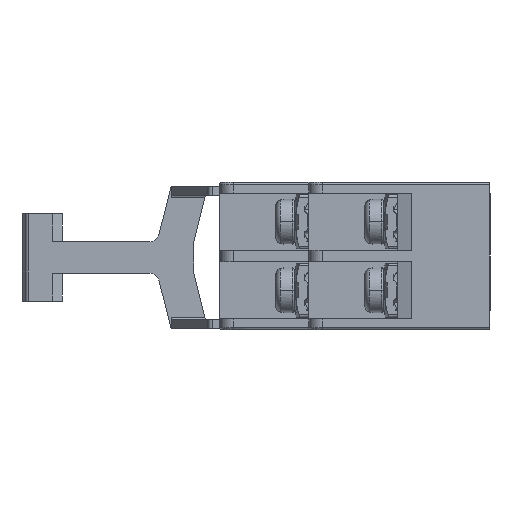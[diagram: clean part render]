
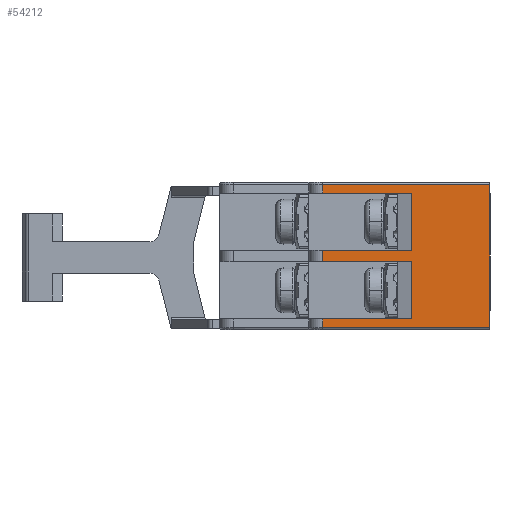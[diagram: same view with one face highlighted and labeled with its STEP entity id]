
A CAD part, left-side view. The second image highlights one B-rep face of the part: STEP entity #54212.
In plain terms, the highlighted planar face has unit normal (-1, 0, 0).
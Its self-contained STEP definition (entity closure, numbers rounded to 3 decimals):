
#377 = ORIENTED_EDGE ( 'NONE', *, *, #44050, .F. ) ;
#1500 = EDGE_CURVE ( 'NONE', #31549, #45745, #12742, .T. ) ;
#1858 = VECTOR ( 'NONE', #58380, 1000. ) ;
#3090 = DIRECTION ( 'NONE',  ( 0., 0., -1. ) ) ;
#4130 = EDGE_CURVE ( 'NONE', #72446, #48815, #29975, .T. ) ;
#4576 = CARTESIAN_POINT ( 'NONE',  ( -34.19, -12.996, 8. ) ) ;
#4980 = ORIENTED_EDGE ( 'NONE', *, *, #4130, .T. ) ;
#6129 = ORIENTED_EDGE ( 'NONE', *, *, #31778, .T. ) ;
#6484 = VERTEX_POINT ( 'NONE', #55406 ) ;
#7498 = EDGE_CURVE ( 'NONE', #64162, #13618, #70440, .T. ) ;
#7636 = CARTESIAN_POINT ( 'NONE',  ( -34.19, 4.954, -6.75 ) ) ;
#8381 = LINE ( 'NONE', #13487, #25812 ) ;
#9680 = CARTESIAN_POINT ( 'NONE',  ( -34.19, 4.954, 7.65 ) ) ;
#10622 = EDGE_CURVE ( 'NONE', #31549, #46979, #25999, .T. ) ;
#10695 = LINE ( 'NONE', #76780, #1858 ) ;
#10813 = LINE ( 'NONE', #72946, #76770 ) ;
#11743 = ORIENTED_EDGE ( 'NONE', *, *, #10622, .T. ) ;
#12230 = ORIENTED_EDGE ( 'NONE', *, *, #57099, .T. ) ;
#12742 = LINE ( 'NONE', #36218, #66722 ) ;
#12842 = VECTOR ( 'NONE', #72995, 1000. ) ;
#13487 = CARTESIAN_POINT ( 'NONE',  ( -34.19, 4.954, 6.75 ) ) ;
#13618 = VERTEX_POINT ( 'NONE', #58279 ) ;
#16259 = EDGE_CURVE ( 'NONE', #37293, #64162, #47994, .T. ) ;
#16725 = CARTESIAN_POINT ( 'NONE',  ( -34.19, 4.954, -0.6 ) ) ;
#16869 = ORIENTED_EDGE ( 'NONE', *, *, #1500, .F. ) ;
#16871 = CARTESIAN_POINT ( 'NONE',  ( -34.19, -12.996, -7.65 ) ) ;
#19305 = VECTOR ( 'NONE', #65881, 1000. ) ;
#19526 = LINE ( 'NONE', #37517, #22440 ) ;
#19852 = ORIENTED_EDGE ( 'NONE', *, *, #53418, .T. ) ;
#22440 = VECTOR ( 'NONE', #3090, 1000. ) ;
#23026 = EDGE_CURVE ( 'NONE', #40467, #6484, #10813, .T. ) ;
#23082 = ORIENTED_EDGE ( 'NONE', *, *, #16259, .T. ) ;
#23269 = CARTESIAN_POINT ( 'NONE',  ( -34.19, -3.096, 6.75 ) ) ;
#25812 = VECTOR ( 'NONE', #44382, 1000. ) ;
#25999 = LINE ( 'NONE', #26390, #71533 ) ;
#26390 = CARTESIAN_POINT ( 'NONE',  ( -34.19, -4.596, -6.75 ) ) ;
#27274 = ORIENTED_EDGE ( 'NONE', *, *, #27847, .T. ) ;
#27847 = EDGE_CURVE ( 'NONE', #48815, #33289, #8381, .T. ) ;
#28401 = DIRECTION ( 'NONE',  ( 1., 0., 0. ) ) ;
#28438 = CARTESIAN_POINT ( 'NONE',  ( -34.19, -4.596, 0.6 ) ) ;
#29975 = LINE ( 'NONE', #67506, #12842 ) ;
#31085 = DIRECTION ( 'NONE',  ( 0., 1., 0. ) ) ;
#31549 = VERTEX_POINT ( 'NONE', #57235 ) ;
#31778 = EDGE_CURVE ( 'NONE', #46979, #37293, #72067, .T. ) ;
#33289 = VERTEX_POINT ( 'NONE', #57060 ) ;
#34284 = PLANE ( 'NONE',  #53689 ) ;
#35066 = ORIENTED_EDGE ( 'NONE', *, *, #7498, .T. ) ;
#36218 = CARTESIAN_POINT ( 'NONE',  ( -34.19, -3.096, -0.6 ) ) ;
#36718 = CARTESIAN_POINT ( 'NONE',  ( -34.19, 4.954, -0.6 ) ) ;
#37293 = VERTEX_POINT ( 'NONE', #7636 ) ;
#37517 = CARTESIAN_POINT ( 'NONE',  ( -34.19, -4.596, 0.6 ) ) ;
#38278 = ORIENTED_EDGE ( 'NONE', *, *, #63890, .F. ) ;
#38464 = VECTOR ( 'NONE', #56001, 1000. ) ;
#40467 = VERTEX_POINT ( 'NONE', #28438 ) ;
#43462 = VERTEX_POINT ( 'NONE', #45506 ) ;
#44050 = EDGE_CURVE ( 'NONE', #43462, #33289, #53758, .T. ) ;
#44382 = DIRECTION ( 'NONE',  ( 0., 0., -1. ) ) ;
#45506 = CARTESIAN_POINT ( 'NONE',  ( -34.19, -4.596, 6.75 ) ) ;
#45587 = EDGE_LOOP ( 'NONE', ( #23082, #35066, #38278, #4980, #27274, #377, #19852, #53018, #12230, #16869, #11743, #6129 ) ) ;
#45745 = VERTEX_POINT ( 'NONE', #16725 ) ;
#46979 = VERTEX_POINT ( 'NONE', #76493 ) ;
#47686 = DIRECTION ( 'NONE',  ( 0., 0., -1. ) ) ;
#47994 = LINE ( 'NONE', #72638, #68558 ) ;
#48815 = VERTEX_POINT ( 'NONE', #9680 ) ;
#49160 = DIRECTION ( 'NONE',  ( 0., 0., -1. ) ) ;
#53018 = ORIENTED_EDGE ( 'NONE', *, *, #23026, .T. ) ;
#53418 = EDGE_CURVE ( 'NONE', #43462, #40467, #19526, .T. ) ;
#53689 = AXIS2_PLACEMENT_3D ( 'NONE', #4576, #28401, #76543 ) ;
#53758 = LINE ( 'NONE', #23269, #19305 ) ;
#54212 = ADVANCED_FACE ( 'NONE', ( #58119 ), #34284, .F. ) ;
#55134 = VECTOR ( 'NONE', #47686, 1000. ) ;
#55406 = CARTESIAN_POINT ( 'NONE',  ( -34.19, 4.954, 0.6 ) ) ;
#56001 = DIRECTION ( 'NONE',  ( 0., 1., 0. ) ) ;
#56752 = CARTESIAN_POINT ( 'NONE',  ( -34.19, 4.954, -7.65 ) ) ;
#57060 = CARTESIAN_POINT ( 'NONE',  ( -34.19, 4.954, 6.75 ) ) ;
#57099 = EDGE_CURVE ( 'NONE', #6484, #45745, #60180, .T. ) ;
#57235 = CARTESIAN_POINT ( 'NONE',  ( -34.19, -4.596, -0.6 ) ) ;
#58119 = FACE_OUTER_BOUND ( 'NONE', #45587, .T. ) ;
#58279 = CARTESIAN_POINT ( 'NONE',  ( -34.19, -12.996, -7.65 ) ) ;
#58380 = DIRECTION ( 'NONE',  ( 0., 0., -1. ) ) ;
#60180 = LINE ( 'NONE', #36718, #55134 ) ;
#63890 = EDGE_CURVE ( 'NONE', #72446, #13618, #10695, .T. ) ;
#64162 = VERTEX_POINT ( 'NONE', #56752 ) ;
#65881 = DIRECTION ( 'NONE',  ( 0., 1., 0. ) ) ;
#66722 = VECTOR ( 'NONE', #72191, 1000. ) ;
#67506 = CARTESIAN_POINT ( 'NONE',  ( -34.19, 4.954, 7.65 ) ) ;
#67736 = CARTESIAN_POINT ( 'NONE',  ( -34.19, -3.096, -6.75 ) ) ;
#68558 = VECTOR ( 'NONE', #49160, 1000. ) ;
#70052 = DIRECTION ( 'NONE',  ( 0., -1., 0. ) ) ;
#70440 = LINE ( 'NONE', #16871, #74959 ) ;
#71533 = VECTOR ( 'NONE', #74880, 1000. ) ;
#72067 = LINE ( 'NONE', #67736, #38464 ) ;
#72191 = DIRECTION ( 'NONE',  ( 0., 1., 0. ) ) ;
#72446 = VERTEX_POINT ( 'NONE', #75757 ) ;
#72638 = CARTESIAN_POINT ( 'NONE',  ( -34.19, 4.954, -8. ) ) ;
#72946 = CARTESIAN_POINT ( 'NONE',  ( -34.19, -3.096, 0.6 ) ) ;
#72995 = DIRECTION ( 'NONE',  ( 0., 1., 0. ) ) ;
#74880 = DIRECTION ( 'NONE',  ( 0., 0., -1. ) ) ;
#74959 = VECTOR ( 'NONE', #70052, 1000. ) ;
#75757 = CARTESIAN_POINT ( 'NONE',  ( -34.19, -12.996, 7.65 ) ) ;
#76493 = CARTESIAN_POINT ( 'NONE',  ( -34.19, -4.596, -6.75 ) ) ;
#76543 = DIRECTION ( 'NONE',  ( 0., 1., 0. ) ) ;
#76770 = VECTOR ( 'NONE', #31085, 1000. ) ;
#76780 = CARTESIAN_POINT ( 'NONE',  ( -34.19, -12.996, 8. ) ) ;
